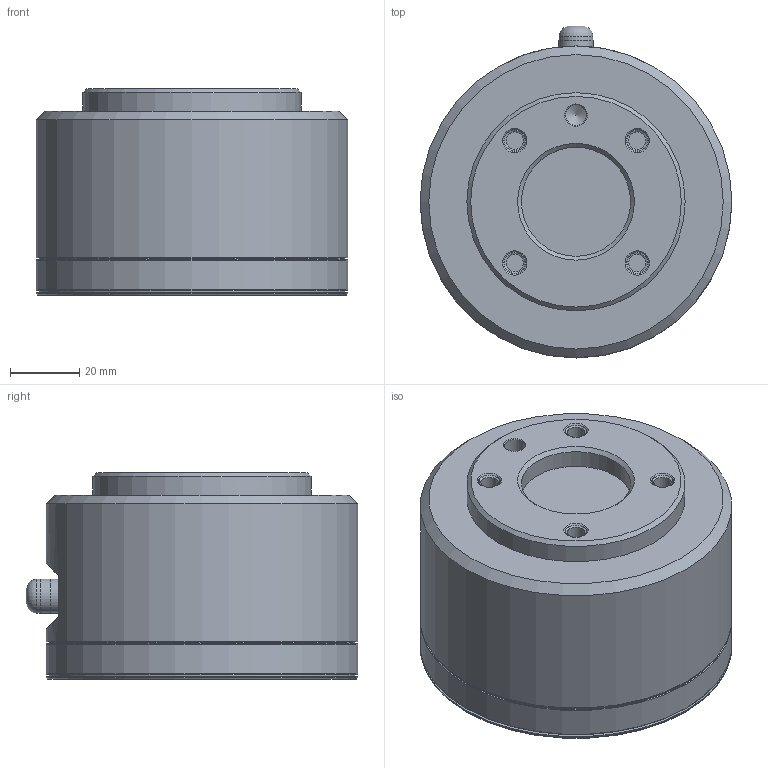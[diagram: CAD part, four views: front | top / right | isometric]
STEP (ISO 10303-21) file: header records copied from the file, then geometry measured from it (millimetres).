
FILE_DESCRIPTION(/* description */ ('STEP AP242 Edition 2','CAx-IF Rec.Pracs.---Representation and Presentation of Product Manufacturing Information (PMI)---4.0---2014-10-13','CAx-IF Rec.Pracs.---3D Tessellated Geometry---0.4---2014-09-14','2;1','CAx-IF Rec.Pracs.---User Defined Attributes---1.5---2016-08-15'),/* implementation_level */ '2;1');
FILE_NAME(/* name */ 'Assembly 1 - Link_6__Combine4',/* time_stamp */ '2026-08-25T12:56:07Z',/* author */ (''),/* organization */ (''),/* preprocessor_version */ 'ST-DEVELOPER v20',/* originating_system */ 'ONSHAPE BY PTC INC, 1.219',/* authorisation */ ' ');
FILE_SCHEMA (('AP242_MANAGED_MODEL_BASED_3D_ENGINEERING_MIM_LF { 1 0 10303 442 3 1 4 }'));
Length unit declared in the file: metre
Products named in the file (1): Link_6__Combine4
Bounding box: 90 x 95.8 x 59.65 mm (x, y, z)
Volume: 350538.5 mm3; surface area: 31479.5 mm2
Topology: 1 solids, 1 shells, 74 faces, 138 edges, 85 vertices
Faces by surface type: cylinder 25, plane 24, cone 18, torus 7
Full cylindrical faces by diameter (mm): 5 x4, 6 x1, 6.25 x8, 9.8 x2, 9.82 x1, 10.2 x1, 31.5 x1, 63 x1, 87.9 x1, 88.195 x2, 90 x3
Entity records: 1773 total; most frequent: DIRECTION 296, CARTESIAN_POINT 241, ORIENTED_EDGE 154, FACE_BOUND 146, AXIS2_PLACEMENT_3D 146, EDGE_LOOP 144, EDGE_CURVE 77, VERTEX_POINT 77
